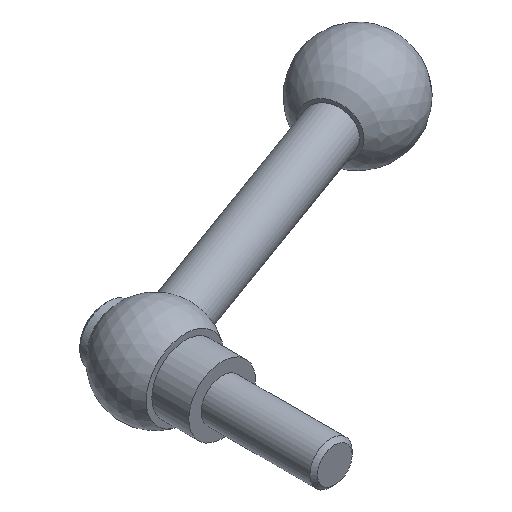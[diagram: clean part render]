
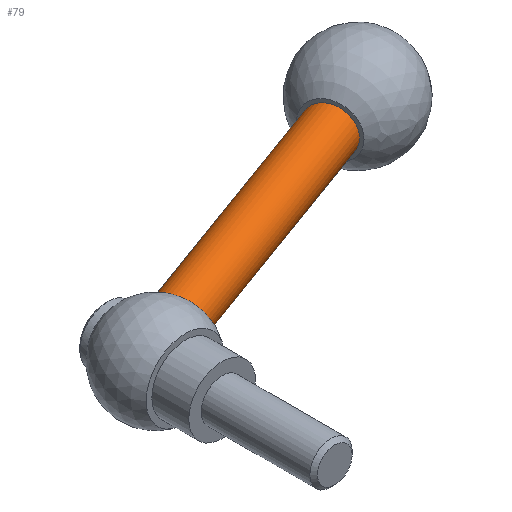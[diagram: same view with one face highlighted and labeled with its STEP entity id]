
A CAD part, isometric view. The second image highlights one B-rep face of the part: STEP entity #79.
In plain terms, the highlighted cylindrical face has radius 6.5 mm (diameter 13 mm), a full revolution.
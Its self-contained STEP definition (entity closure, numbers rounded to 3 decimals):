
#79 = ADVANCED_FACE( '', ( #100, #101 ), #102, .T. );
#100 = FACE_OUTER_BOUND( '', #137, .T. );
#101 = FACE_OUTER_BOUND( '', #138, .T. );
#102 = CYLINDRICAL_SURFACE( '', #139, 6.5 );
#137 = EDGE_LOOP( '', ( #184 ) );
#138 = EDGE_LOOP( '', ( #185, #186 ) );
#139 = AXIS2_PLACEMENT_3D( '', #187, #188, #189 );
#184 = ORIENTED_EDGE( '', *, *, #235, .F. );
#185 = ORIENTED_EDGE( '', *, *, #232, .F. );
#186 = ORIENTED_EDGE( '', *, *, #234, .T. );
#187 = CARTESIAN_POINT( '', ( 108.095, 60.63, 0. ) );
#188 = DIRECTION( '', ( -0.94, -0.342, 0. ) );
#189 = DIRECTION( '', ( -0.342, 0.94, 0. ) );
#232 = EDGE_CURVE( '', #248, #247, #250, .T. );
#234 = EDGE_CURVE( '', #248, #247, #253, .T. );
#235 = EDGE_CURVE( '', #254, #254, #255, .T. );
#247 = VERTEX_POINT( '', #272 );
#248 = VERTEX_POINT( '', #273 );
#250 = B_SPLINE_CURVE_WITH_KNOTS( '', 3, ( #275, #276, #277, #278, #279, #280, #281, #282, #283, #284, #285, #286, #287, #288, #289, #290, #291, #292, #293, #294, #295, #296, #297, #298, #299, #300, #301, #302, #303, #304, #305, #306, #307, #308, #309, #310, #311, #312, #313, #314, #315, #316, #317, #318, #319, #320, #321, #322, #323, #324, #325, #326, #327, #328, #329, #330, #331, #332, #333, #334, #335, #336, #337, #338, #339, #340, #341, #342, #343, #344, #345, #346 ), .UNSPECIFIED., .F., .F., ( 4, 2, 2, 2, 2, 2, 2, 2, 2, 2, 2, 2, 2, 2, 2, 2, 2, 2, 2, 2, 2, 2, 2, 2, 2, 2, 2, 2, 2, 2, 2, 2, 2, 2, 2, 4 ), ( 0., 0.001, 0.002, 0.003, 0.005, 0.006, 0.007, 0.008, 0.009, 0.01, 0.011, 0.012, 0.013, 0.014, 0.015, 0.015, 0.016, 0.017, 0.017, 0.018, 0.019, 0.02, 0.021, 0.023, 0.024, 0.025, 0.026, 0.027, 0.028, 0.029, 0.03, 0.032, 0.033, 0.034, 0.035, 0.036 ), .UNSPECIFIED. );
#253 = B_SPLINE_CURVE_WITH_KNOTS( '', 3, ( #349, #350, #351, #352, #353, #354, #355, #356, #357, #358, #359, #360, #361, #362 ), .UNSPECIFIED., .F., .F., ( 4, 2, 2, 2, 2, 2, 4 ), ( 0., 0.001, 0.002, 0.002, 0.003, 0.004, 0.005 ), .UNSPECIFIED. );
#254 = VERTEX_POINT( '', #363 );
#255 = CIRCLE( '', #364, 6.5 );
#272 = CARTESIAN_POINT( '', ( 7.623, 30.5, 2.375 ) );
#273 = CARTESIAN_POINT( '', ( 7.623, 30.5, -2.375 ) );
#275 = CARTESIAN_POINT( '', ( 7.623, 30.5, -2.375 ) );
#276 = CARTESIAN_POINT( '', ( 7.696, 30.378, -2.73 ) );
#277 = CARTESIAN_POINT( '', ( 7.784, 30.232, -3.066 ) );
#278 = CARTESIAN_POINT( '', ( 7.987, 29.891, -3.705 ) );
#279 = CARTESIAN_POINT( '', ( 8.104, 29.696, -4.009 ) );
#280 = CARTESIAN_POINT( '', ( 8.363, 29.259, -4.576 ) );
#281 = CARTESIAN_POINT( '', ( 8.504, 29.023, -4.834 ) );
#282 = CARTESIAN_POINT( '', ( 8.805, 28.514, -5.301 ) );
#283 = CARTESIAN_POINT( '', ( 8.966, 28.241, -5.51 ) );
#284 = CARTESIAN_POINT( '', ( 9.305, 27.665, -5.873 ) );
#285 = CARTESIAN_POINT( '', ( 9.479, 27.367, -6.023 ) );
#286 = CARTESIAN_POINT( '', ( 9.839, 26.751, -6.265 ) );
#287 = CARTESIAN_POINT( '', ( 10.025, 26.431, -6.357 ) );
#288 = CARTESIAN_POINT( '', ( 10.402, 25.782, -6.477 ) );
#289 = CARTESIAN_POINT( '', ( 10.59, 25.457, -6.504 ) );
#290 = CARTESIAN_POINT( '', ( 10.966, 24.805, -6.495 ) );
#291 = CARTESIAN_POINT( '', ( 11.155, 24.476, -6.459 ) );
#292 = CARTESIAN_POINT( '', ( 11.527, 23.828, -6.323 ) );
#293 = CARTESIAN_POINT( '', ( 11.707, 23.513, -6.223 ) );
#294 = CARTESIAN_POINT( '', ( 12.057, 22.899, -5.965 ) );
#295 = CARTESIAN_POINT( '', ( 12.228, 22.598, -5.804 ) );
#296 = CARTESIAN_POINT( '', ( 12.552, 22.025, -5.426 ) );
#297 = CARTESIAN_POINT( '', ( 12.704, 21.756, -5.21 ) );
#298 = CARTESIAN_POINT( '', ( 12.917, 21.378, -4.85 ) );
#299 = CARTESIAN_POINT( '', ( 12.986, 21.257, -4.723 ) );
#300 = CARTESIAN_POINT( '', ( 13.118, 21.022, -4.457 ) );
#301 = CARTESIAN_POINT( '', ( 13.182, 20.909, -4.316 ) );
#302 = CARTESIAN_POINT( '', ( 13.362, 20.588, -3.882 ) );
#303 = CARTESIAN_POINT( '', ( 13.469, 20.398, -3.575 ) );
#304 = CARTESIAN_POINT( '', ( 13.608, 20.149, -3.087 ) );
#305 = CARTESIAN_POINT( '', ( 13.651, 20.073, -2.92 ) );
#306 = CARTESIAN_POINT( '', ( 13.73, 19.931, -2.578 ) );
#307 = CARTESIAN_POINT( '', ( 13.767, 19.866, -2.401 ) );
#308 = CARTESIAN_POINT( '', ( 13.863, 19.695, -1.867 ) );
#309 = CARTESIAN_POINT( '', ( 13.911, 19.609, -1.504 ) );
#310 = CARTESIAN_POINT( '', ( 13.959, 19.522, -0.948 ) );
#311 = CARTESIAN_POINT( '', ( 13.972, 19.5, -0.761 ) );
#312 = CARTESIAN_POINT( '', ( 13.988, 19.47, -0.383 ) );
#313 = CARTESIAN_POINT( '', ( 13.992, 19.463, -0.192 ) );
#314 = CARTESIAN_POINT( '', ( 13.992, 19.462, 0.376 ) );
#315 = CARTESIAN_POINT( '', ( 13.976, 19.491, 0.751 ) );
#316 = CARTESIAN_POINT( '', ( 13.912, 19.606, 1.494 ) );
#317 = CARTESIAN_POINT( '', ( 13.863, 19.694, 1.865 ) );
#318 = CARTESIAN_POINT( '', ( 13.736, 19.922, 2.574 ) );
#319 = CARTESIAN_POINT( '', ( 13.657, 20.062, 2.915 ) );
#320 = CARTESIAN_POINT( '', ( 13.471, 20.393, 3.567 ) );
#321 = CARTESIAN_POINT( '', ( 13.363, 20.587, 3.881 ) );
#322 = CARTESIAN_POINT( '', ( 13.124, 21.012, 4.457 ) );
#323 = CARTESIAN_POINT( '', ( 12.993, 21.245, 4.722 ) );
#324 = CARTESIAN_POINT( '', ( 12.707, 21.751, 5.206 ) );
#325 = CARTESIAN_POINT( '', ( 12.552, 22.025, 5.425 ) );
#326 = CARTESIAN_POINT( '', ( 12.23, 22.594, 5.802 ) );
#327 = CARTESIAN_POINT( '', ( 12.061, 22.89, 5.961 ) );
#328 = CARTESIAN_POINT( '', ( 11.71, 23.507, 6.222 ) );
#329 = CARTESIAN_POINT( '', ( 11.526, 23.829, 6.323 ) );
#330 = CARTESIAN_POINT( '', ( 11.157, 24.472, 6.458 ) );
#331 = CARTESIAN_POINT( '', ( 10.971, 24.797, 6.495 ) );
#332 = CARTESIAN_POINT( '', ( 10.593, 25.453, 6.504 ) );
#333 = CARTESIAN_POINT( '', ( 10.401, 25.784, 6.476 ) );
#334 = CARTESIAN_POINT( '', ( 10.028, 26.427, 6.358 ) );
#335 = CARTESIAN_POINT( '', ( 9.844, 26.743, 6.268 ) );
#336 = CARTESIAN_POINT( '', ( 9.482, 27.362, 6.026 ) );
#337 = CARTESIAN_POINT( '', ( 9.304, 27.665, 5.872 ) );
#338 = CARTESIAN_POINT( '', ( 8.969, 28.236, 5.513 ) );
#339 = CARTESIAN_POINT( '', ( 8.809, 28.507, 5.307 ) );
#340 = CARTESIAN_POINT( '', ( 8.506, 29.019, 4.838 ) );
#341 = CARTESIAN_POINT( '', ( 8.363, 29.259, 4.576 ) );
#342 = CARTESIAN_POINT( '', ( 8.106, 29.691, 4.015 ) );
#343 = CARTESIAN_POINT( '', ( 7.991, 29.886, 3.715 ) );
#344 = CARTESIAN_POINT( '', ( 7.785, 30.229, 3.072 ) );
#345 = CARTESIAN_POINT( '', ( 7.696, 30.378, 2.73 ) );
#346 = CARTESIAN_POINT( '', ( 7.623, 30.5, 2.375 ) );
#349 = CARTESIAN_POINT( '', ( 7.623, 30.5, -2.375 ) );
#350 = CARTESIAN_POINT( '', ( 7.735, 30.691, -2.017 ) );
#351 = CARTESIAN_POINT( '', ( 7.825, 30.843, -1.639 ) );
#352 = CARTESIAN_POINT( '', ( 7.919, 31.001, -1.038 ) );
#353 = CARTESIAN_POINT( '', ( 7.944, 31.042, -0.831 ) );
#354 = CARTESIAN_POINT( '', ( 7.976, 31.096, -0.419 ) );
#355 = CARTESIAN_POINT( '', ( 7.984, 31.11, -0.212 ) );
#356 = CARTESIAN_POINT( '', ( 7.984, 31.11, 0.204 ) );
#357 = CARTESIAN_POINT( '', ( 7.976, 31.097, 0.414 ) );
#358 = CARTESIAN_POINT( '', ( 7.944, 31.042, 0.83 ) );
#359 = CARTESIAN_POINT( '', ( 7.92, 31.002, 1.033 ) );
#360 = CARTESIAN_POINT( '', ( 7.826, 30.845, 1.632 ) );
#361 = CARTESIAN_POINT( '', ( 7.735, 30.691, 2.016 ) );
#362 = CARTESIAN_POINT( '', ( 7.623, 30.5, 2.375 ) );
#363 = CARTESIAN_POINT( '', ( 79.561, 57.162, 0. ) );
#364 = AXIS2_PLACEMENT_3D( '', #389, #390, #391 );
#389 = CARTESIAN_POINT( '', ( 81.784, 51.054, 0. ) );
#390 = DIRECTION( '', ( 0.94, 0.342, 0. ) );
#391 = DIRECTION( '', ( -0.342, 0.94, 0. ) );
